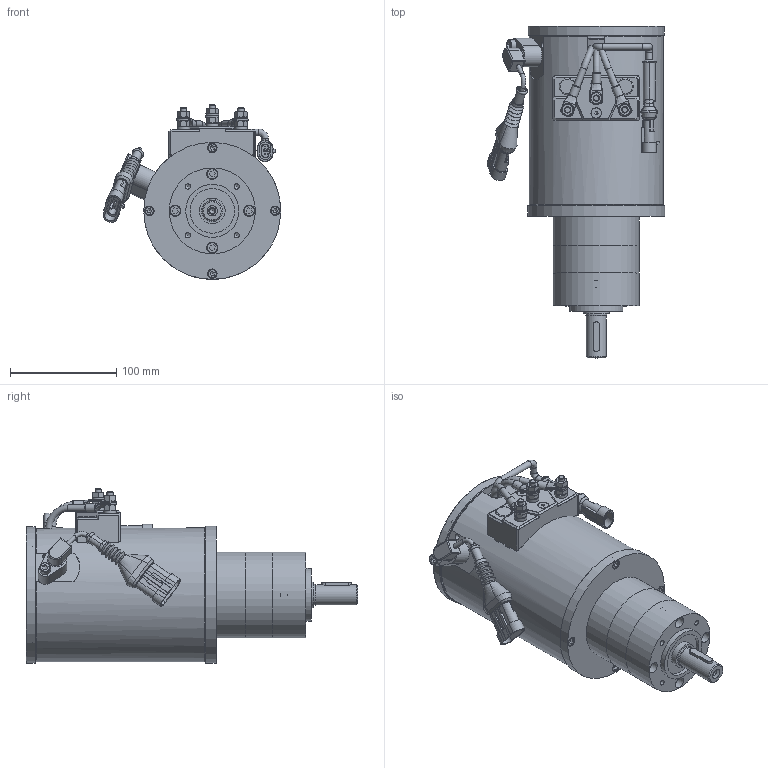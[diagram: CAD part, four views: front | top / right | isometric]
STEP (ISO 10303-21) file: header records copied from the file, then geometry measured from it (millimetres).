
FILE_DESCRIPTION(/* description */ (''),/* implementation_level */ '2;1');
FILE_NAME(/* name */ 'Z:\SITO WEB 2023\Motoriduttori\Motoriduttori AC\D.110 mm\ARD110.PM81.stp',/* time_stamp */ '2023-09-19T16:25:06+02:00',/* author */ ('cad3'),/* organization */ (''),/* preprocessor_version */ 'ST-DEVELOPER v18.1',/* originating_system */ 'Autodesk Inventor 2022',/* authorisation */ '');
FILE_SCHEMA (('AUTOMOTIVE_DESIGN { 1 0 10303 214 3 1 1 }'));
Products named in the file (1): ARD110.PM81
Bounding box: 167.15 x 312.5 x 164.5 mm (x, y, z)
Volume: 1197420.5 mm3; surface area: 289297.4 mm2
Topology: 3 solids, 16 shells, 3378 faces, 9503 edges, 5985 vertices
Faces by surface type: plane 2534, cylinder 451, cone 181, bspline 87, torus 79, sphere 46
Full cylindrical faces by diameter (mm): 4 x2, 4.134 x8, 4.917 x14, 5 x14, 5.3 x8, 5.5 x8, 6 x26, 6.2 x7, 6.4 x5, 8 x7, 8.5 x8, 9 x8, 9.64 x2, 10 x5, 10.5 x4, 12.4 x2, 13.9 x1, 14 x1, 15 x2, 15.2 x2, 16 x1, 18 x1, 19 x1, 20 x1, 24.2 x1, 30 x1, 35 x1, 37 x1, 42 x1, 47 x2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
Entity records: 117093 total; most frequent: CARTESIAN_POINT 25073, ORIENTED_EDGE 18892, DIRECTION 18320, EDGE_CURVE 9446, AXIS2_PLACEMENT_3D 6145, LINE 6030, VECTOR 6030, VERTEX_POINT 5985
